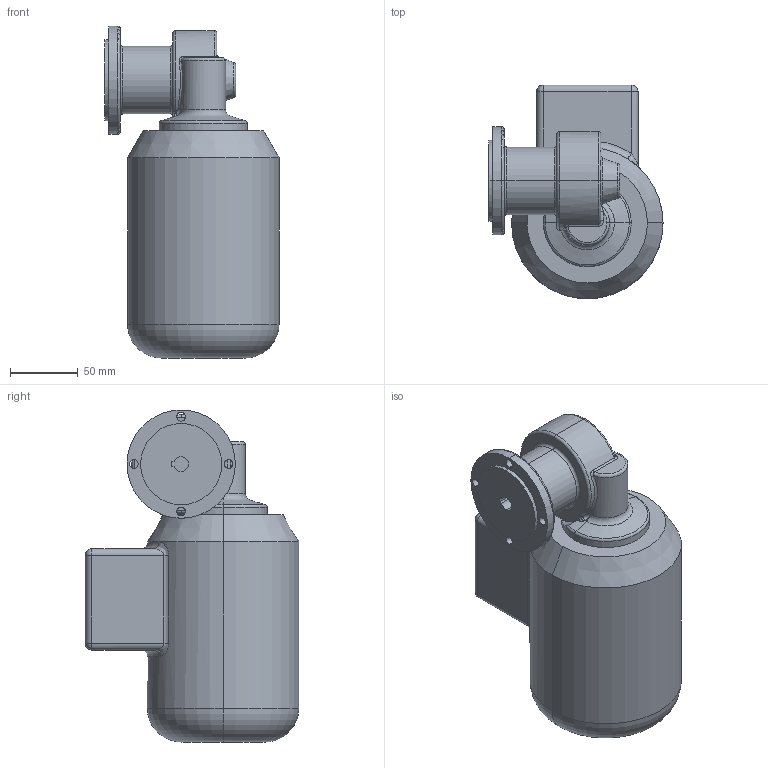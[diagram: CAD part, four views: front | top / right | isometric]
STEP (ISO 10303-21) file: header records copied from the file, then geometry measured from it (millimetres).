
FILE_DESCRIPTION (( 'STEP AP203' ), '1' );
FILE_NAME ('SN5FLH-90,120W-A.STEP', '2007-07-16T10:30:04', ( ' ' ), ( ' ' ), 'SwSTEP 2.0', 'SolidWorks 2006233', '' );
FILE_SCHEMA (( 'CONFIG_CONTROL_DESIGN' ));
Length unit declared in the file: millimetre
Products named in the file (3): SN5FLH-90,120W-A; SN5FLH_Standard; BG56of_Standard
Assembly tree (2 placements, depth 2):
  SN5FLH-90,120W-A
    SN5FLH_Standard
    BG56of_Standard
Bounding box: 128.7 x 158 x 245.5 mm (x, y, z)
Volume: 2171376.5 mm3; surface area: 124608.6 mm2
Topology: 2 solids, 2 shells, 112 faces, 268 edges, 156 vertices
Faces by surface type: cylinder 39, torus 28, plane 19, bspline 15, cone 7, sphere 4
Entity records: 4715 total; most frequent: CARTESIAN_POINT 1870, DIRECTION 569, ORIENTED_EDGE 528, EDGE_CURVE 264, AXIS2_PLACEMENT_3D 251, VERTEX_POINT 156, CIRCLE 149, EDGE_LOOP 120
